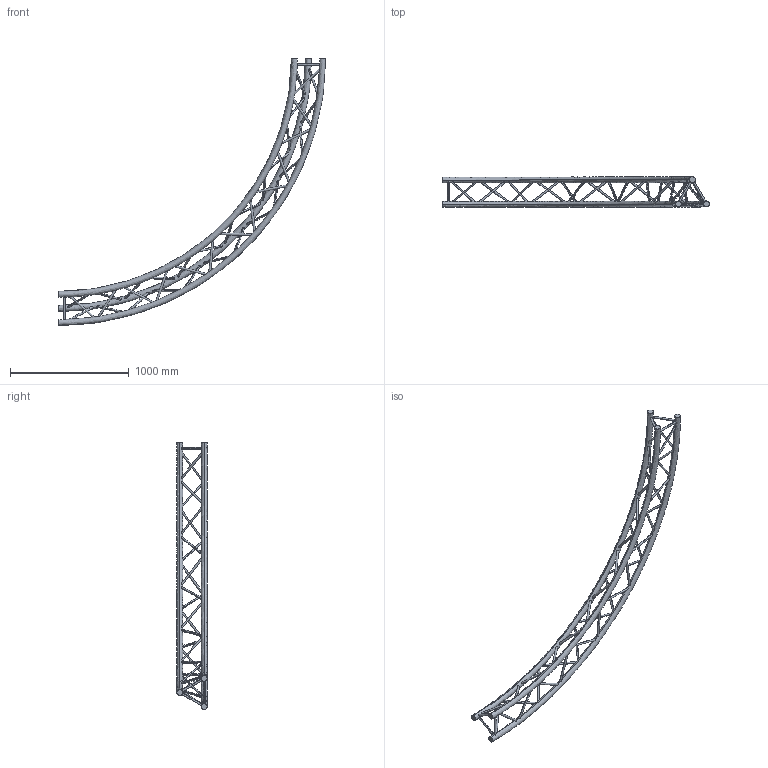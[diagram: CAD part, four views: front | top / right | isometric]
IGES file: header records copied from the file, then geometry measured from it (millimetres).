
Start section: SolidWorks IGES file using analytic representation for surfaces
Global section: file name: K:\BIBLIO\asd_biblio\SX290\Cercles\SXC29450PH\SXC29450PH.IGS; native system: SolidWorks 2009; preprocessor: SolidWorks 2009; author: des3; date: 091021.102258; units: millimetre
Bounding box: 2250 x 255.25 x 2250 mm (x, y, z)
Surface area: 2129971 mm2 (no closed solid volume)
Topology: 0 solids, 0 shells, 102 faces, 7363 edges, 7363 vertices
Faces by surface type: revolution 90, bspline 12
